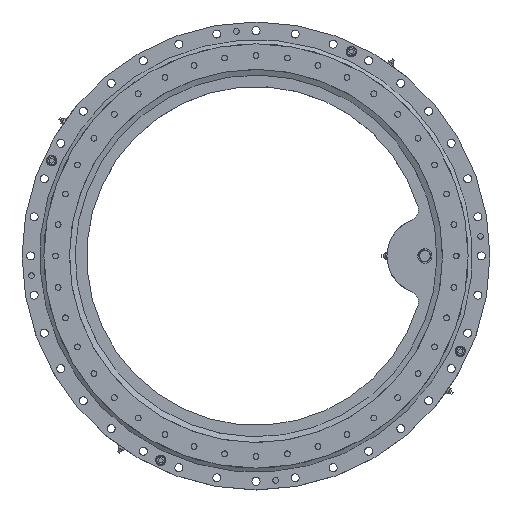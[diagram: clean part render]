
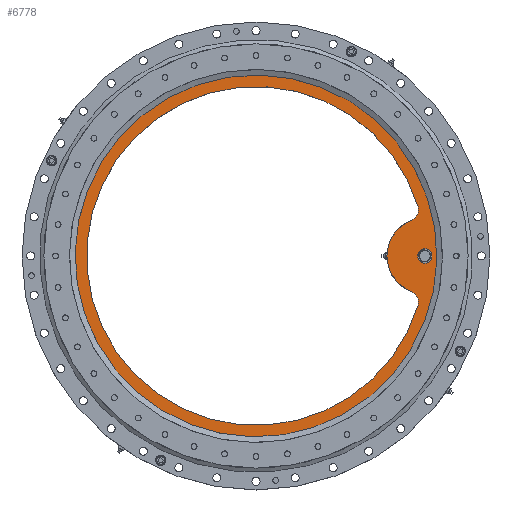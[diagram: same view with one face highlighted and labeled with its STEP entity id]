
A CAD part, top view. The second image highlights one B-rep face of the part: STEP entity #6778.
In plain terms, the highlighted planar face has unit normal (0, 0, 1).
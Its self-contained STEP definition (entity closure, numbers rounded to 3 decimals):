
#49=PLANE('',#7336);
#292=FACE_BOUND('',#978,.T.);
#293=FACE_BOUND('',#979,.T.);
#541=FACE_OUTER_BOUND('',#977,.T.);
#977=EDGE_LOOP('',(#4910));
#978=EDGE_LOOP('',(#4911));
#979=EDGE_LOOP('',(#4912,#4913,#4914,#4915));
#2454=CIRCLE('',#7172,66.);
#2456=CIRCLE('',#7175,295.);
#2564=CIRCLE('',#7334,20.);
#2566=CIRCLE('',#7337,317.);
#2567=CIRCLE('',#7338,10.5);
#2568=CIRCLE('',#7339,20.);
#2930=VERTEX_POINT('',#10113);
#2931=VERTEX_POINT('',#10115);
#2936=VERTEX_POINT('',#10310);
#2937=VERTEX_POINT('',#10311);
#3044=VERTEX_POINT('',#10629);
#3045=VERTEX_POINT('',#10631);
#3613=EDGE_CURVE('',#2930,#2931,#2454,.T.);
#3619=EDGE_CURVE('',#2936,#2937,#2456,.T.);
#3776=EDGE_CURVE('',#2930,#2937,#2564,.T.);
#3778=EDGE_CURVE('',#3044,#3044,#2566,.T.);
#3779=EDGE_CURVE('',#3045,#3045,#2567,.T.);
#3780=EDGE_CURVE('',#2936,#2931,#2568,.T.);
#4910=ORIENTED_EDGE('',*,*,#3778,.T.);
#4911=ORIENTED_EDGE('',*,*,#3779,.T.);
#4912=ORIENTED_EDGE('',*,*,#3619,.F.);
#4913=ORIENTED_EDGE('',*,*,#3780,.T.);
#4914=ORIENTED_EDGE('',*,*,#3613,.F.);
#4915=ORIENTED_EDGE('',*,*,#3776,.T.);
#6778=ADVANCED_FACE('',(#541,#292,#293),#49,.T.);
#7172=AXIS2_PLACEMENT_3D('',#10116,#7989,#7990);
#7175=AXIS2_PLACEMENT_3D('',#10312,#7997,#7998);
#7334=AXIS2_PLACEMENT_3D('',#10626,#8364,#8365);
#7336=AXIS2_PLACEMENT_3D('',#10628,#8368,#8369);
#7337=AXIS2_PLACEMENT_3D('',#10630,#8370,#8371);
#7338=AXIS2_PLACEMENT_3D('',#10632,#8372,#8373);
#7339=AXIS2_PLACEMENT_3D('',#10633,#8374,#8375);
#7989=DIRECTION('center_axis',(0.,0.,-1.));
#7990=DIRECTION('ref_axis',(1.,0.,0.));
#7997=DIRECTION('center_axis',(0.,0.,1.));
#7998=DIRECTION('ref_axis',(1.,0.,0.));
#8364=DIRECTION('center_axis',(0.,0.,-1.));
#8365=DIRECTION('ref_axis',(1.,0.,0.));
#8368=DIRECTION('center_axis',(0.,0.,1.));
#8369=DIRECTION('ref_axis',(1.,0.,0.));
#8370=DIRECTION('center_axis',(0.,0.,1.));
#8371=DIRECTION('ref_axis',(1.,0.,0.));
#8372=DIRECTION('center_axis',(0.,0.,-1.));
#8373=DIRECTION('ref_axis',(-1.,0.,0.));
#8374=DIRECTION('center_axis',(0.,0.,-1.));
#8375=DIRECTION('ref_axis',(1.,0.,0.));
#10113=CARTESIAN_POINT('',(295.669,-59.897,457.578));
#10115=CARTESIAN_POINT('',(295.669,63.251,457.578));
#10116=CARTESIAN_POINT('Origin',(319.433,1.677,457.578));
#10310=CARTESIAN_POINT('',(307.598,87.744,457.578));
#10311=CARTESIAN_POINT('',(307.598,-84.39,457.578));
#10312=CARTESIAN_POINT('Origin',(25.433,1.677,457.578));
#10626=CARTESIAN_POINT('Origin',(288.468,-78.555,457.578));
#10628=CARTESIAN_POINT('Origin',(25.433,1.677,457.578));
#10629=CARTESIAN_POINT('',(-291.567,1.677,457.578));
#10630=CARTESIAN_POINT('Origin',(25.433,1.677,457.578));
#10631=CARTESIAN_POINT('',(329.933,1.677,457.578));
#10632=CARTESIAN_POINT('Origin',(319.433,1.677,457.578));
#10633=CARTESIAN_POINT('Origin',(288.468,81.909,457.578));
